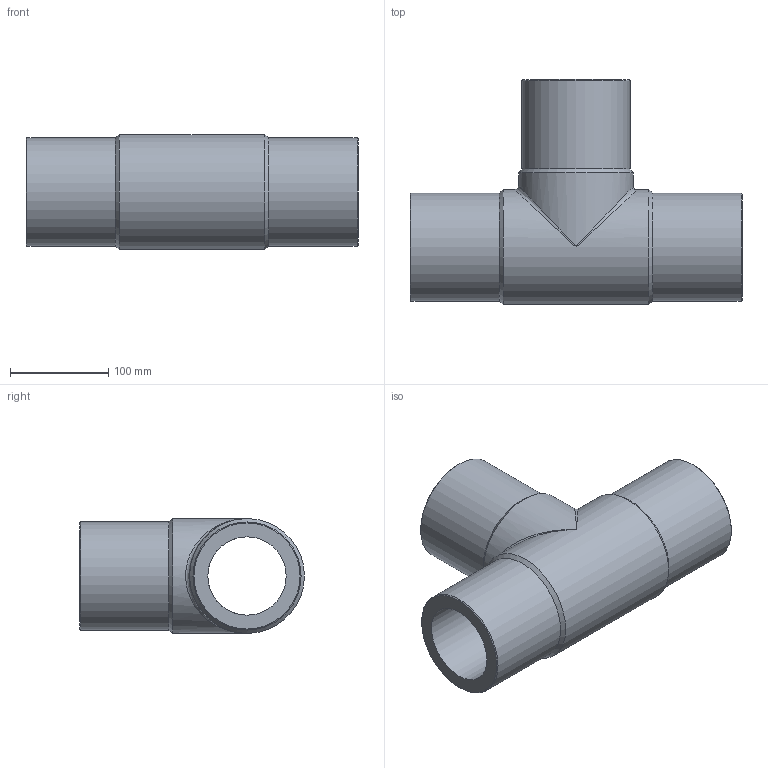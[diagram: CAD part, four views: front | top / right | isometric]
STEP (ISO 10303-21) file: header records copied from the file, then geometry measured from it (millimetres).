
FILE_DESCRIPTION(/* description */ ('Unknown'),/* implementation_level */ '2;1');
FILE_NAME(/* name */ 'TP110H',/* time_stamp */ '2021-08-12T16:38:53+02:00',/* author */ ('Unknown'),/* organization */ ('Unknown'),/* preprocessor_version */ 'ST-DEVELOPER v16.7',/* originating_system */ 'Solid Edge',/* authorisation */ 'Unknown');
FILE_SCHEMA (('AUTOMOTIVE_DESIGN {1 0 10303 214 3 1 1}'));
Length unit declared in the file: millimetre
Products named in the file (1): TP110H
Bounding box: 338 x 229 x 117 mm (x, y, z)
Volume: 2211050.8 mm3; surface area: 282196.7 mm2
Topology: 1 solids, 1 shells, 18 faces, 44 edges, 23 vertices
Faces by surface type: cylinder 7, cone 6, plane 3, bspline 2
Full cylindrical faces by diameter (mm): 79.8 x2, 110 x3, 117 x2
Entity records: 516 total; most frequent: CARTESIAN_POINT 159, DIRECTION 76, ORIENTED_EDGE 42, AXIS2_PLACEMENT_3D 38, EDGE_LOOP 36, FACE_BOUND 36, EDGE_CURVE 21, VERTEX_POINT 19
